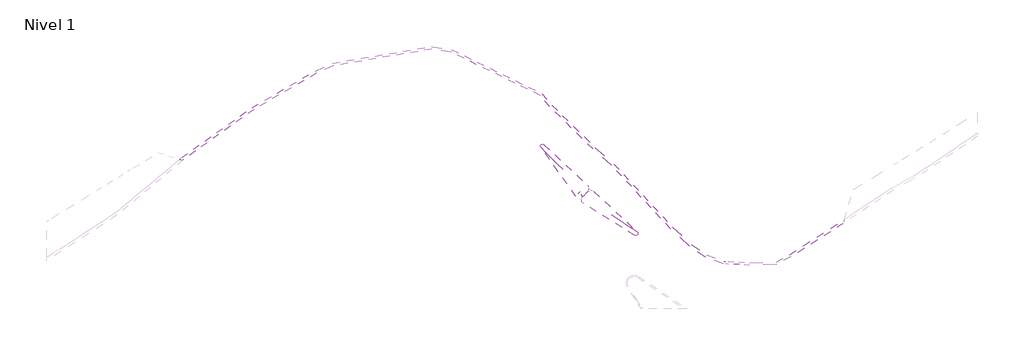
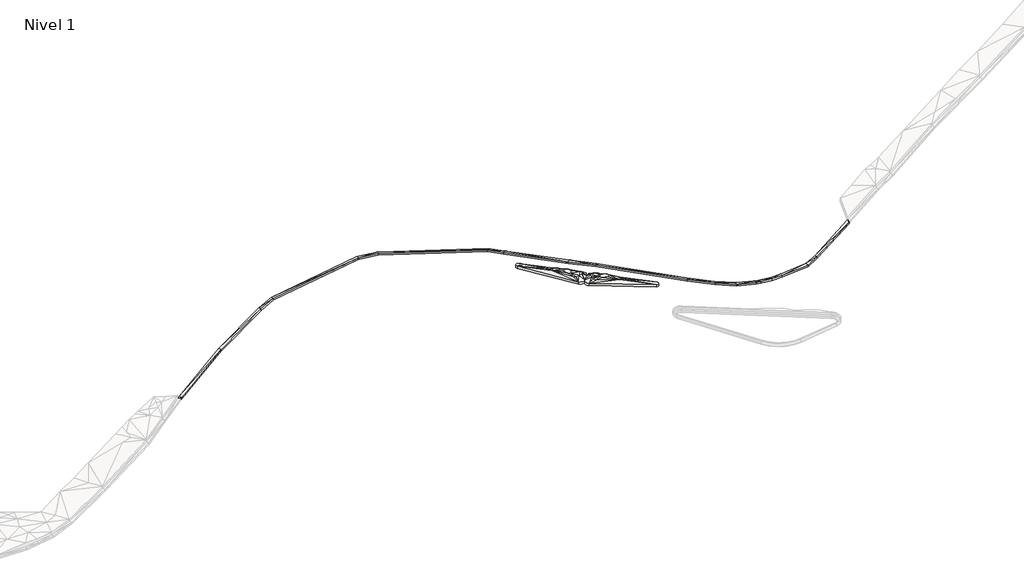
# One storey, part 39 of 45: 3 slabs.
"""IFC4 building model written with IfcOpenShell, lengths in millimetres."""

from ifc_helpers import new_model, si_unit, frame, origin, place, context, project, spatial, polyline, circle_curve, faceted_brep, element, save
from ifc_brep_helpers import plane_surface, cylinder_surface, revolved_surface, spline_surface, advanced_brep

model = new_model("IFC4")

# Units and contexts
model_context = context("Model", 3, world=origin())
ifc_project = project(units=[si_unit("LENGTHUNIT", "METRE", prefix="MILLI")], contexts=[model_context])

# Site, building, storey
site = spatial("IfcSite", under=ifc_project)
building = spatial("IfcBuilding", under=site)
storey = spatial("IfcBuildingStorey", under=building, Name="Nivel 1", Elevation=0.0)

# Slabs
placement = place(None, origin())
element("IfcSlab", 1, ObjectType="Lippia", at=placement, inside=storey, context=model_context, shape_type="AdvancedBrep", body=[
    advanced_brep(
    [(-76435.1369897, 950622.6443783, 5950.0), (-76435.1369897, 950622.6443783, 6250.0), (-77046.0704399, 949970.8708421, 6250.0), (-77046.0704399, 949970.8708421, 5950.0), (-77818.6474752, 950023.4719558, 6250.0), (-77818.6474752, 950023.4719558, 5950.0), (-81923.623135, 955769.5843605, 6250.0), (-81923.623135, 955769.5843605, 5950.0), (-81548.3037812, 956096.4401023, 5950.0), (-81548.3037812, 956096.4401023, 6250.0), (-76458.8259721, 951325.718032, 6250.0), (-76458.8259721, 951325.718032, 5950.0), (-77388.3218557, 950577.0256504, 6550.0), (-76942.5372837, 950804.7384024, 6550.0), (-77388.3218557, 950577.0256504, 6250.0), (-76942.5372837, 950804.7384024, 6250.0), (-78469.2875248, 951917.8143574, 6750.0), (-78391.3468971, 951638.7536323, 6750.0), (-78313.4062694, 951359.6929073, 6750.0), (-77970.2771539, 951198.8548317, 6750.0), (-77744.9177413, 951587.492539, 6750.0), (-77876.0465996, 951844.8392536, 6750.0), (-77984.3429155, 952057.3760013, 6750.0), (-78321.6851355, 952219.1697623, 6750.0), (-78469.2875248, 951917.8143574, 6450.0), (-78321.6851355, 952219.1697623, 6450.0), (-77984.3429155, 952057.3760013, 6450.0), (-77876.0465996, 951844.8392536, 6450.0), (-77744.9177413, 951587.492539, 6450.0), (-77970.2771539, 951198.8548317, 6450.0), (-78313.4062694, 951359.6929073, 6450.0), (-78391.3468971, 951638.7536323, 6450.0), (-76887.7393508, 951212.0219639, 6550.0), (-76808.5046331, 950994.033163, 6550.0), (-76887.7393508, 951212.0219639, 6250.0), (-76808.5046331, 950994.033163, 6250.0), (-77749.592549, 950537.2608149, 6550.0), (-77749.592549, 950537.2608149, 6250.0), (-78042.3456556, 950752.6520277, 6550.0), (-79373.3372658, 952833.8566069, 6550.0), (-79373.3372658, 952833.8566069, 6250.0), (-78042.3456556, 950752.6520277, 6250.0), (-78993.2909556, 953152.3769173, 6550.0), (-78993.2909556, 953152.3769173, 6250.0), (-79323.3177258, 953160.1470646, 6550.0), (-79323.3177258, 953160.1470646, 6250.0)],
    [
        (0, 1),
        (1, 2),
        (2, 3),
        (3, 0),
        (2, 4, circle_curve(frame((-77410.8706635, 950312.8127083, 6250.0), z_axis=(0.0, 0.0, -1.0), x_axis=(-0.6165845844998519, -0.7872886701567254, 0.0)), 499.9999992)),
        (4, 5),
        (5, 3, circle_curve(frame((-77410.8706635, 950312.8127083, 5950.0), z_axis=(0.0, 0.0, 1.0), x_axis=(-0.6165845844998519, -0.7872886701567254, 0.0)), 499.9999992)),
        (4, 6),
        (6, 7),
        (7, 5),
        (8, 9),
        (9, 10),
        (10, 11),
        (11, 8),
        (10, 1, circle_curve(frame((-76802.1411197, 950962.2146489, 6250.0), z_axis=(0.0, 0.0, -1.0), x_axis=(-0.6165845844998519, -0.7872886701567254, 0.0)), 500.0000001)),
        (0, 11, circle_curve(frame((-76802.1411197, 950962.2146489, 5950.0), z_axis=(0.0, 0.0, 1.0), x_axis=(-0.6165845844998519, -0.7872886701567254, 0.0)), 500.0000001)),
        (2, 12),
        (12, 4),
        (1, 13),
        (13, 2),
        (5, 14),
        (14, 3),
        (3, 15),
        (15, 0),
        (16, 17),
        (17, 18),
        (18, 19),
        (19, 20),
        (20, 21),
        (21, 22),
        (22, 23),
        (23, 16),
        (24, 25),
        (25, 26),
        (26, 27),
        (27, 28),
        (28, 29),
        (29, 30),
        (30, 31),
        (31, 24),
        (20, 32),
        (32, 22),
        (10, 32),
        (32, 33),
        (33, 10),
        (19, 32),
        (26, 34),
        (34, 28),
        (11, 35),
        (35, 34),
        (34, 11),
        (34, 29),
        (32, 12),
        (12, 13),
        (13, 33),
        (19, 12),
        (12, 36),
        (36, 4),
        (35, 15),
        (15, 14),
        (14, 34),
        (14, 29),
        (5, 37),
        (37, 14),
        (4, 38),
        (38, 39),
        (39, 4),
        (19, 38),
        (38, 36),
        (36, 19),
        (5, 40),
        (40, 41),
        (41, 5),
        (29, 37),
        (37, 41),
        (41, 29),
        (22, 42),
        (42, 23),
        (23, 39),
        (39, 16),
        (39, 18),
        (25, 43),
        (43, 26),
        (24, 40),
        (40, 25),
        (30, 40),
        (42, 39),
        (40, 43),
        (1, 33),
        (35, 0),
        (10, 42),
        (42, 32),
        (42, 44),
        (44, 39),
        (18, 38),
        (34, 43),
        (43, 11),
        (40, 45),
        (45, 43),
        (41, 30),
        (6, 9, circle_curve(frame((-81720.1964385, 955914.9107271, 6250.0), z_axis=(0.0, 0.0, -1.0), x_axis=(-0.6165845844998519, -0.7872886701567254, 0.0)), 249.9999994)),
        (8, 7, circle_curve(frame((-81720.1964385, 955914.9107271, 5950.0), z_axis=(0.0, 0.0, 1.0), x_axis=(-0.6165845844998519, -0.7872886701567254, 0.0)), 249.9999994)),
        (9, 42),
        (9, 44),
        (6, 44),
        (6, 39),
        (43, 8),
        (45, 8),
        (45, 7),
        (40, 7),
    ],
    [
        plane_surface(frame((-76435.1369897, 950622.6443783, 5950.0), z_axis=(0.7295954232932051, -0.6838790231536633, 0.0), x_axis=(0.0, 0.0, 1.0))),
        cylinder_surface(frame((-77410.8706635, 950312.8127083, 6250.0), z_axis=(0.0, 0.0, -1.0000000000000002), x_axis=(-0.6165845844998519, -0.7872886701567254, 0.0)), 499.9999992),
        plane_surface(frame((-77818.6474752, 950023.4719558, 5950.0), z_axis=(-0.8136926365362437, -0.5812953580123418, 0.0), x_axis=(0.0, 0.0, 1.0))),
        plane_surface(frame((-81548.3037812, 956096.4401023, 5950.0), z_axis=(0.6838905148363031, 0.7295846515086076, 0.0), x_axis=(0.0, 0.0, 1.0))),
        cylinder_surface(frame((-76802.1411197, 950962.2146489, 6250.0), z_axis=(0.0, 0.0, -1.0000000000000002), x_axis=(-0.6165845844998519, -0.7872886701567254, 0.0)), 500.0000001),
        spline_surface(2, 1, [[(-77818.6474752, 950023.4719558, 6250.0), (-77388.3218557, 950577.0256504, 6550.0)], [(-77681.42137488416, 949830.0749967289, 6250.0), (-77388.3218557, 950577.0256504, 6550.0)], [(-77444.83326242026, 949813.9675007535, 6250.0), (-77388.3218557, 950577.0256504, 6550.0)], [(-77208.2451499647, 949797.8600047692, 6250.0), (-77388.3218557, 950577.0256504, 6550.0)], [(-77046.0729525, 949970.8731972, 6250.0), (-77388.3218557, 950577.0256504, 6550.0)]], [3, 2, 3], [2, 2], [0.0, 1.0, 2.0], [0.0, 1.0], weights=[[1.0, 1.0], [0.9035324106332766, 0.9035324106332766], [1.0, 1.0], [0.9035324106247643, 0.9035324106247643], [1.0, 1.0]]),
        plane_surface(frame((-76807.9149044, 950466.0845409, 6350.0), z_axis=(0.37830301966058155, -0.3545985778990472, 0.8550711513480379), x_axis=(0.6838790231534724, 0.7295954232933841, 0.0))),
        spline_surface(1, 2, [[(-77818.6474752, 950023.4719558, 5950.0), (-77681.42137488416, 949830.0749967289, 5950.0), (-77444.83326242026, 949813.9675007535, 5950.0), (-77208.2451499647, 949797.8600047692, 5950.0), (-77046.0729525, 949970.8731972, 5950.0)], [(-77388.3218557, 950577.0256504, 6250.0), (-77388.3218557, 950577.0256504, 6250.0), (-77388.3218557, 950577.0256504, 6250.0), (-77388.3218557, 950577.0256504, 6250.0), (-77388.3218557, 950577.0256504, 6250.0)]], [2, 2], [3, 2, 3], [0.0, 1.0], [0.0, 1.0, 2.0], weights=[[1.0, 0.9035324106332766, 1.0, 0.9035324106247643, 1.0], [1.0, 0.9035324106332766, 1.0, 0.9035324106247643, 1.0]]),
        plane_surface(frame((-76807.9149044, 950466.0845409, 6050.0), z_axis=(-0.37830301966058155, 0.3545985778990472, -0.8550711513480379), x_axis=(0.6838790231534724, 0.7295954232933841, 0.0))),
        plane_surface(frame((-78133.9861234, 951723.4000665, 6750.0), z_axis=(0.0, 0.0, 1.0), x_axis=(0.26900137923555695, -0.9631397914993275, 0.0))),
        plane_surface(frame((-78133.9861234, 951723.4000665, 6450.0), z_axis=(0.0, 0.0, -1.0), x_axis=(0.26900137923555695, -0.9631397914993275, 0.0))),
        plane_surface(frame((-77539.0000025, 951618.9635014, 6683.3333333), z_axis=(0.28462563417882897, 0.14502860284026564, 0.9476048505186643), x_axis=(0.45400192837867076, -0.8910007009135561, 0.0))),
        plane_surface(frame((-76718.356652, 951177.2577196, 6450.0), z_axis=(0.5278484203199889, 0.19186270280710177, 0.8273842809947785), x_axis=(-0.8007726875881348, -0.2122682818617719, 0.5600939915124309))),
        plane_surface(frame((-77534.3114153, 951332.7897782, 6683.3333333), z_axis=(0.1819034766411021, -0.10548039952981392, 0.9776425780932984), x_axis=(0.9832880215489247, 0.011959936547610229, -0.18166349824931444))),
        plane_surface(frame((-77539.0000025, 951618.9635014, 6383.3333333), z_axis=(-0.28462563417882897, -0.14502860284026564, -0.9476048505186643), x_axis=(0.45400192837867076, -0.8910007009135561, 0.0))),
        plane_surface(frame((-76718.356652, 951177.2577196, 6150.0), z_axis=(-0.5278484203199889, -0.19186270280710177, -0.8273842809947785), x_axis=(-0.8007726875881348, -0.2122682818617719, 0.5600939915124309))),
        plane_surface(frame((-77534.3114153, 951332.7897782, 6383.3333333), z_axis=(-0.1819034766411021, 0.10548039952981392, -0.9776425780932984), x_axis=(0.9832880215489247, 0.011959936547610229, -0.18166349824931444))),
        plane_surface(frame((-77006.7757808, 950896.9547949, 6550.0), z_axis=(0.0, 0.0, 1.0000000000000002), x_axis=(-0.6190876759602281, -0.7853218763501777, 0.0))),
        plane_surface(frame((-77415.4461201, 950995.967482, 6616.6666667), z_axis=(0.18148995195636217, -0.14307279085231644, 0.9729293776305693), x_axis=(0.6652140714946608, -0.7107926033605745, -0.22861346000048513))),
        plane_surface(frame((-77652.1872933, 950379.252807, 6450.0), z_axis=(0.05603054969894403, -0.509047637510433, 0.8589127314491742), x_axis=(0.5642665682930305, 0.7258499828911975, 0.393376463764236))),
        plane_surface(frame((-77125.6431931, 950450.8782983, 6450.0), z_axis=(0.18017295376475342, -0.3527177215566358, 0.9182199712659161), x_axis=(0.11604010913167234, 0.9345999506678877, 0.33624042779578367))),
        plane_surface(frame((-77006.7757808, 950896.9547949, 6250.0), z_axis=(0.0, 0.0, -1.0000000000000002), x_axis=(-0.6190876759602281, -0.7853218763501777, 0.0))),
        plane_surface(frame((-77415.4461201, 950995.967482, 6316.6666667), z_axis=(-0.18148995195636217, 0.14307279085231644, -0.9729293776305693), x_axis=(0.6652140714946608, -0.7107926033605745, -0.22861346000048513))),
        plane_surface(frame((-77652.1872933, 950379.252807, 6150.0), z_axis=(-0.05603054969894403, 0.509047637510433, -0.8589127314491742), x_axis=(0.5642665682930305, 0.7258499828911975, 0.393376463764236))),
        plane_surface(frame((-77125.6431931, 950450.8782983, 6150.0), z_axis=(-0.18017295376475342, 0.3527177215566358, -0.9182199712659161), x_axis=(0.11604010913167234, 0.9345999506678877, 0.33624042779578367))),
        plane_surface(frame((-78411.4434656, 951203.3268635, 6450.0), z_axis=(-0.696205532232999, -0.4452439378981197, 0.563076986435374), x_axis=(-0.272935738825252, 0.889677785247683, 0.3660321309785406))),
        plane_surface(frame((-77920.7384528, 950829.5892248, 6616.6666667), z_axis=(-0.2639125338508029, -0.35870179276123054, 0.8953676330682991), x_axis=(-0.14581155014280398, -0.9027733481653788, -0.4046470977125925))),
        plane_surface(frame((-78411.4434656, 951203.3268635, 6150.0), z_axis=(0.696205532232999, 0.4452439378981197, -0.563076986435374), x_axis=(-0.272935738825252, 0.889677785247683, 0.3660321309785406))),
        plane_surface(frame((-77920.7384528, 950829.5892248, 6316.6666667), z_axis=(0.2639125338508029, 0.35870179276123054, -0.8953676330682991), x_axis=(-0.14581155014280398, -0.9027733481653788, -0.4046470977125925))),
        plane_surface(frame((-78433.1063355, 952476.3075603, 6683.3333333), z_axis=(0.14754888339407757, 0.307641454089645, 0.9399925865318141), x_axis=(0.901659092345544, -0.43244754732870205, 0.0))),
        plane_surface(frame((-78721.4366421, 952323.6135755, 6683.3333333), z_axis=(-0.14588615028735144, 0.07145431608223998, 0.9867175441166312), x_axis=(0.43986682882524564, 0.898063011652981, 0.0))),
        plane_surface(frame((-78718.67702, 952037.1212905, 6683.3333333), z_axis=(-0.293836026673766, -0.08206731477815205, 0.9523262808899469), x_axis=(-0.6941017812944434, 0.7033092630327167, -0.15355389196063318))),
        plane_surface(frame((-78433.1063355, 952476.3075603, 6383.3333333), z_axis=(-0.14754888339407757, -0.307641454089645, -0.9399925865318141), x_axis=(0.901659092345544, -0.43244754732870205, 0.0))),
        plane_surface(frame((-78721.4366421, 952323.6135755, 6383.3333333), z_axis=(0.14588615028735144, -0.07145431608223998, -0.9867175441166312), x_axis=(0.43986682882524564, 0.898063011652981, 0.0))),
        plane_surface(frame((-78718.67702, 952037.1212905, 6383.3333333), z_axis=(0.293836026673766, 0.08206731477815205, -0.9523262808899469), x_axis=(-0.6941017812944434, 0.7033092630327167, -0.15355389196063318))),
        plane_surface(frame((-78896.1044523, 952735.1344288, 6616.6666667), z_axis=(-0.11037380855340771, 0.13169382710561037, 0.9851265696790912), x_axis=(-0.5754890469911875, 0.799651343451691, -0.1713770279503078))),
        plane_surface(frame((-78896.1044523, 952735.1344288, 6316.6666667), z_axis=(0.11037380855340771, -0.13169382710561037, -0.9851265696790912), x_axis=(-0.5754890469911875, 0.799651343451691, -0.1713770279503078))),
        plane_surface(frame((-76728.7263022, 950807.1386479, 6450.0), z_axis=(0.40823194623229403, -0.28905401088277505, 0.8659067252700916), x_axis=(-0.6160368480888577, 0.6127718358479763, 0.4949841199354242))),
        spline_surface(2, 1, [[(-76435.1369897, 950622.6443783, 6250.0), (-76808.5046331, 950994.033163, 6550.0)], [(-76099.03051142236, 950985.9048764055, 6250.0), (-76808.5046331, 950994.033163, 6550.0)], [(-76458.8259721, 951325.718032, 6250.0), (-76808.5046331, 950994.033163, 6550.0)]], [3, 3], [2, 2], [0.0, 1.0], [0.0, 1.0], weights=[[1.0, 1.0], [0.7107223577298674, 0.7107223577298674], [1.0, 1.0]]),
        plane_surface(frame((-76728.7263022, 950807.1386479, 6150.0), z_axis=(-0.40823194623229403, 0.28905401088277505, -0.8659067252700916), x_axis=(-0.6160368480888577, 0.6127718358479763, 0.4949841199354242))),
        spline_surface(1, 2, [[(-76435.1369897, 950622.6443783, 5950.0), (-76099.03051142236, 950985.9048764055, 5950.0), (-76458.8259721, 951325.718032, 5950.0)], [(-76808.5046331, 950994.033163, 6250.0), (-76808.5046331, 950994.033163, 6250.0), (-76808.5046331, 950994.033163, 6250.0)]], [2, 2], [3, 3], [0.0, 1.0], [0.0, 1.0], weights=[[1.0, 0.7107223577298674, 1.0], [1.0, 0.7107223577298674, 1.0]]),
        plane_surface(frame((-77702.7305195, 950771.047099, 6616.6666667), z_axis=(0.030797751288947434, -0.2798031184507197, 0.9595632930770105), x_axis=(0.30416599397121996, -0.9118642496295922, -0.275656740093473))),
        plane_surface(frame((-77702.7305195, 950771.047099, 6316.6666667), z_axis=(-0.030797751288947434, 0.2798031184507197, -0.9595632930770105), x_axis=(0.30416599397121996, -0.9118642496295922, -0.275656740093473))),
        plane_surface(frame((-77446.6187595, 951896.7056377, 6450.0), z_axis=(0.423840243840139, 0.4599248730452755, 0.7802746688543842), x_axis=(-0.8075396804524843, 0.5820161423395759, 0.09558699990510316))),
        plane_surface(frame((-79229.9819824, 953048.7935296, 6550.0), z_axis=(0.0, 0.0, 1.0), x_axis=(0.766418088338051, 0.6423420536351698, 0.0))),
        plane_surface(frame((-78108.6763596, 951103.7332555, 6683.3333333), z_axis=(-0.1774288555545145, -0.3785235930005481, 0.9084266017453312), x_axis=(-0.9054626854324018, 0.4244258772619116, 0.0))),
        plane_surface(frame((-77870.1952266, 950437.7949328, 6450.0), z_axis=(-0.3263310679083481, -0.44353914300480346, 0.8347341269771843), x_axis=(0.1152922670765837, 0.8578082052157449, 0.5008720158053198))),
        plane_surface(frame((-77446.6187595, 951896.7056377, 6150.0), z_axis=(-0.423840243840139, -0.4599248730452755, -0.7802746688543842), x_axis=(-0.8075396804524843, 0.5820161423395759, 0.09558699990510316))),
        plane_surface(frame((-79229.9819824, 953048.7935296, 6250.0), z_axis=(0.0, 0.0, -1.0), x_axis=(0.766418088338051, 0.6423420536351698, 0.0))),
        plane_surface(frame((-78108.6763596, 951103.7332555, 6383.3333333), z_axis=(0.1774288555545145, 0.3785235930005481, -0.9084266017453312), x_axis=(-0.9054626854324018, 0.4244258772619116, 0.0))),
        plane_surface(frame((-77870.1952266, 950437.7949328, 6150.0), z_axis=(0.3263310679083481, 0.44353914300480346, -0.8347341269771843), x_axis=(0.1152922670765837, 0.8578082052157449, 0.5008720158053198))),
        plane_surface(frame((-77955.1244073, 952140.5916275, 6616.6666667), z_axis=(0.5791832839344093, 0.6284934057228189, 0.5191750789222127), x_axis=(0.7838557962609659, -0.6042618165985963, -0.14296065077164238))),
        plane_surface(frame((-77955.1244073, 952140.5916275, 6316.6666667), z_axis=(-0.5791832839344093, -0.6284934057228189, -0.5191750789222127), x_axis=(0.7838557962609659, -0.6042618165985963, -0.14296065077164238))),
        plane_surface(frame((-78576.3630636, 951648.7338473, 6616.6666667), z_axis=(-0.7554630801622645, -0.48314088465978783, 0.4425499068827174), x_axis=(-0.5802627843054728, 0.8070358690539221, -0.10949067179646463))),
        plane_surface(frame((-78576.3630636, 951648.7338473, 6316.6666667), z_axis=(0.7554630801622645, 0.48314088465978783, -0.4425499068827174), x_axis=(-0.5802627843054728, 0.8070358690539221, -0.10949067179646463))),
        cylinder_surface(frame((-81720.1964385, 955914.9107271, 6250.0), z_axis=(0.0, 0.0, -1.0000000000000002), x_axis=(-0.6165845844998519, -0.7872886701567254, 0.0)), 249.9999994),
        plane_surface(frame((-79000.1402363, 953524.8450172, 6350.0), z_axis=(0.40994441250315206, 0.4373348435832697, 0.8004272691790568), x_axis=(-0.7295846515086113, 0.683890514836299, 0.0))),
        plane_surface(frame((-79954.9708209, 954136.3213614, 6450.0), z_axis=(0.002436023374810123, 0.10346688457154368, 0.9946299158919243), x_axis=(-0.6535094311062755, 0.753018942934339, -0.07673262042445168))),
        spline_surface(2, 1, [[(-81548.3037812, 956096.4401023, 6250.0), (-79323.3177258, 953160.1470646, 6550.0)], [(-81713.16427563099, 956252.5487675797, 6250.0), (-79323.3177258, 953160.1470646, 6550.0)], [(-81884.38169685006, 956103.4397716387, 6250.0), (-79323.3177258, 953160.1470646, 6550.0)], [(-82055.59911809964, 955954.3307757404, 6250.0), (-79323.3177258, 953160.1470646, 6550.0)], [(-81923.6195971, 955769.586888, 6250.0), (-79323.3177258, 953160.1470646, 6550.0)]], [3, 2, 3], [2, 2], [0.0, 1.0, 2.0], [0.0, 1.0], weights=[[1.0, 1.0], [0.7402773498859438, 0.7402773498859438], [1.0, 1.0], [0.7402773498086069, 0.7402773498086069], [1.0, 1.0]]),
        plane_surface(frame((-80206.7593755, 953921.1960107, 6450.0), z_axis=(-0.09948144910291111, 0.015250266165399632, 0.994922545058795), x_axis=(0.15152746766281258, 0.9884530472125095, 0.0))),
        plane_surface(frame((-79705.2026253, 952875.6376411, 6350.0), z_axis=(-0.5136168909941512, -0.36692370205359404, 0.775606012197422), x_axis=(-0.48196553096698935, 0.8712403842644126, 0.09300225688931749))),
        plane_surface(frame((-79000.1402363, 953524.8450172, 6050.0), z_axis=(-0.40994441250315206, -0.4373348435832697, -0.8004272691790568), x_axis=(-0.7295846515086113, 0.683890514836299, 0.0))),
        plane_surface(frame((-79954.9708209, 954136.3213614, 6150.0), z_axis=(-0.002436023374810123, -0.10346688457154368, -0.9946299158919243), x_axis=(-0.6535094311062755, 0.753018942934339, -0.07673262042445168))),
        spline_surface(1, 2, [[(-81548.3037812, 956096.4401023, 5950.0), (-81713.16427563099, 956252.5487675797, 5950.0), (-81884.38169685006, 956103.4397716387, 5950.0), (-82055.59911809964, 955954.3307757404, 5950.0), (-81923.6195971, 955769.586888, 5950.0)], [(-79323.3177258, 953160.1470646, 6250.0), (-79323.3177258, 953160.1470646, 6250.0), (-79323.3177258, 953160.1470646, 6250.0), (-79323.3177258, 953160.1470646, 6250.0), (-79323.3177258, 953160.1470646, 6250.0)]], [2, 2], [3, 2, 3], [0.0, 1.0], [0.0, 1.0, 2.0], weights=[[1.0, 0.7402773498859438, 1.0, 0.7402773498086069, 1.0], [1.0, 0.7402773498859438, 1.0, 0.7402773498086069, 1.0]]),
        plane_surface(frame((-80206.7593755, 953921.1960107, 6150.0), z_axis=(0.09948144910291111, -0.015250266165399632, -0.994922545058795), x_axis=(0.15152746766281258, 0.9884530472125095, 0.0))),
        plane_surface(frame((-79705.2026253, 952875.6376411, 6050.0), z_axis=(0.5136168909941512, 0.36692370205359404, -0.775606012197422), x_axis=(-0.48196553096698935, 0.8712403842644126, 0.09300225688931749))),
    ],
    [
        (0, [[1, 2, 3, 4]]),
        (1, [[-3, 5, 6, 7]]),
        (2, [[-6, 8, 9, 10]]),
        (3, [[11, 12, 13, 14]]),
        (4, [[-13, 15, -1, 16]]),
        (5, [[-5, 17, 18]]),
        (6, [[-2, 19, 20]]),
        (7, [[21, 22, -7]]),
        (8, [[23, 24, -4]]),
        (9, [[25, 26, 27, 28, 29, 30, 31, 32]]),
        (10, [[33, 34, 35, 36, 37, 38, 39, 40]]),
        (11, [[-29, 41, 42, -30]]),
        (12, [[43, 44, 45]]),
        (13, [[46, -41, -28]]),
        (14, [[-35, 47, 48, -36]]),
        (15, [[49, 50, 51]]),
        (16, [[-37, -48, 52]]),
        (17, [[53, 54, 55, -44]]),
        (18, [[56, -53, -46]]),
        (19, [[-18, 57, 58]]),
        (20, [[-20, -54, -17]]),
        (21, [[-50, 59, 60, 61]]),
        (22, [[-52, -61, 62]]),
        (23, [[63, 64, -21]]),
        (24, [[-22, -60, -23]]),
        (25, [[65, 66, 67]]),
        (26, [[68, 69, 70]]),
        (27, [[71, 72, 73]]),
        (28, [[74, 75, 76]]),
        (29, [[-31, 77, 78]]),
        (30, [[-32, 79, 80]]),
        (31, [[-80, 81, -26, -25]]),
        (32, [[82, 83, -34]]),
        (33, [[84, 85, -33]]),
        (34, [[-40, -39, 86, -84]]),
        (35, [[-78, 87, -79]]),
        (36, [[-85, 88, -82]]),
        (37, [[89, -55, -19]]),
        (38, [[-45, -89, -15]]),
        (39, [[-24, -59, 90]]),
        (40, [[-16, -90, -49]]),
        (41, [[-70, -57, -56]]),
        (42, [[-62, -64, -74]]),
        (43, [[91, 92, -43]]),
        (44, [[-87, 93, 94]]),
        (45, [[-27, 95, -68]]),
        (46, [[-58, -69, -65]]),
        (47, [[-51, 96, 97]]),
        (48, [[98, 99, -88]]),
        (49, [[-76, 100, -38]]),
        (50, [[-73, -75, -63]]),
        (51, [[-42, -92, -77]]),
        (52, [[-83, -96, -47]]),
        (53, [[-81, -66, -95]]),
        (54, [[-100, -72, -86]]),
        (55, [[-9, 101, -11, 102]]),
        (56, [[-12, 103, -91]]),
        (57, [[-103, 104, -93]]),
        (58, [[-104, -101, 105]]),
        (59, [[-94, -105, 106]]),
        (60, [[-67, -106, -8]]),
        (61, [[-97, 107, -14]]),
        (62, [[-99, 108, -107]]),
        (63, [[109, -102, -108]]),
        (64, [[110, -109, -98]]),
        (65, [[-10, -110, -71]]),
    ],
),
])
element("IfcSlab", 2, ObjectType="Lippia", at=placement, inside=storey, context=model_context, shape_type="AdvancedBrep", body=[
    advanced_brep(
    [(-77062.0282511, 949953.8691999, 5950.0), (-77062.0282511, 949953.8691999, 6250.0), (-76434.7380016, 950622.1894251, 6250.0), (-76434.7380016, 950622.1894251, 5950.0), (-76918.1493136, 949189.326082, 5950.0), (-76918.1493136, 949189.326082, 6250.0), (-70957.6543549, 945481.6323534, 5950.0), (-70957.6543549, 945481.6323534, 6250.0), (-75731.5884755, 950643.5078269, 5950.0), (-75731.5884755, 950643.5078269, 6250.0), (-70633.1920488, 945853.5104789, 6250.0), (-70633.1920488, 945853.5104789, 5950.0), (-75579.0897389, 948794.8957782, 6750.0), (-75012.1425533, 948675.0233137, 6750.0), (-74729.8931872, 948851.7611882, 6750.0), (-74868.8299397, 949158.2961881, 6750.0), (-75122.903816, 949262.3835982, 6750.0), (-75407.0970984, 949390.0633752, 6750.0), (-75761.5404439, 949127.0376405, 6750.0), (-76430.6381561, 949672.8972148, 6550.0), (-76230.1529852, 950136.6398024, 6550.0), (-75579.0897389, 948794.8957782, 6450.0), (-75761.5404439, 949127.0376405, 6450.0), (-75407.0970984, 949390.0633752, 6450.0), (-75122.903816, 949262.3835982, 6450.0), (-74868.8299397, 949158.2961881, 6450.0), (-74729.8931872, 948851.7611882, 6450.0), (-75012.1425533, 948675.0233137, 6450.0), (-76430.6381561, 949672.8972148, 6250.0), (-76230.1529852, 950136.6398024, 6250.0), (-74049.1507048, 947841.1358727, 6550.0), (-73755.6815768, 948240.8430387, 6550.0), (-74049.1507048, 947841.1358727, 6250.0), (-73755.6815768, 948240.8430387, 6250.0), (-75828.0809531, 950218.2995737, 6550.0), (-76072.3941878, 950277.6506599, 6550.0), (-75828.0809531, 950218.2995737, 6250.0), (-76072.3941878, 950277.6506599, 6250.0), (-76444.6911751, 949312.4028143, 6550.0), (-76444.6911751, 949312.4028143, 6250.0), (-76212.4932157, 949036.2908663, 6550.0), (-76212.4932157, 949036.2908663, 6250.0), (-73726.7450131, 947912.0018533, 6550.0), (-73726.7450131, 947912.0018533, 6250.0)],
    [
        (0, 1),
        (1, 2),
        (2, 3),
        (3, 0),
        (4, 5),
        (5, 1, circle_curve(frame((-76681.3534993, 949629.6983595, 6250.0), z_axis=(0.0, 0.0, -1.0), x_axis=(0.2588190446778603, -0.9659258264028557, 0.0)), 500.0000005)),
        (0, 4, circle_curve(frame((-76681.3534993, 949629.6983595, 5950.0), z_axis=(0.0, 0.0, 1.0), x_axis=(0.2588190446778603, -0.9659258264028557, 0.0)), 500.0000005)),
        (6, 7),
        (7, 5),
        (4, 6),
        (8, 9),
        (9, 10),
        (10, 11),
        (11, 8),
        (2, 9, circle_curve(frame((-76072.3941878, 950277.6506599, 6250.0), z_axis=(0.0, 0.0, -1.0), x_axis=(0.2588190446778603, -0.9659258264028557, 0.0)), 500.0000001)),
        (8, 3, circle_curve(frame((-76072.3941878, 950277.6506599, 5950.0), z_axis=(0.0, 0.0, 1.0), x_axis=(0.2588190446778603, -0.9659258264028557, 0.0)), 500.0000001)),
        (12, 13),
        (13, 14),
        (14, 15),
        (15, 16),
        (16, 17),
        (17, 18),
        (18, 12),
        (5, 19),
        (19, 1),
        (1, 20),
        (20, 2),
        (21, 22),
        (22, 23),
        (23, 24),
        (24, 25),
        (25, 26),
        (26, 27),
        (27, 21),
        (0, 28),
        (28, 4),
        (3, 29),
        (29, 0),
        (13, 30),
        (30, 14),
        (14, 31),
        (31, 15),
        (26, 32),
        (32, 27),
        (25, 33),
        (33, 26),
        (30, 31),
        (12, 30),
        (33, 32),
        (32, 21),
        (34, 9),
        (9, 35),
        (35, 34),
        (16, 34),
        (34, 17),
        (36, 37),
        (37, 8),
        (8, 36),
        (23, 36),
        (36, 24),
        (2, 35),
        (35, 20),
        (20, 19),
        (19, 34),
        (37, 3),
        (36, 28),
        (28, 29),
        (29, 37),
        (19, 17),
        (19, 18),
        (5, 38),
        (38, 19),
        (23, 28),
        (22, 28),
        (28, 39),
        (39, 4),
        (40, 18),
        (18, 38),
        (38, 40),
        (40, 5),
        (5, 30),
        (30, 40),
        (41, 39),
        (39, 22),
        (22, 41),
        (41, 32),
        (32, 4),
        (4, 41),
        (34, 15),
        (31, 34),
        (31, 9),
        (36, 33),
        (25, 36),
        (8, 33),
        (40, 12),
        (21, 41),
        (42, 31),
        (30, 42),
        (43, 32),
        (33, 43),
        (10, 7, circle_curve(frame((-70825.636238, 945693.9321798, 6250.0), z_axis=(0.0, 0.0, -1.0), x_axis=(0.2588190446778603, -0.9659258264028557, 0.0)), 249.999999)),
        (6, 11, circle_curve(frame((-70825.636238, 945693.9321798, 5950.0), z_axis=(0.0, 0.0, 1.0), x_axis=(0.2588190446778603, -0.9659258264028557, 0.0)), 249.999999)),
        (31, 10),
        (42, 10),
        (42, 7),
        (30, 7),
        (11, 33),
        (11, 43),
        (6, 43),
        (6, 32),
    ],
    [
        plane_surface(frame((-77062.0282511, 949953.8691999, 5950.0), z_axis=(-0.7291342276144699, 0.6843707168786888, 0.0), x_axis=(0.0, 0.0, 1.0))),
        cylinder_surface(frame((-76681.3534993, 949629.6983595, 6250.0), z_axis=(0.0, 0.0, -1.0), x_axis=(0.2588190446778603, -0.9659258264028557, 0.0)), 500.0000005),
        plane_surface(frame((-70957.6543549, 945481.6323534, 5950.0), z_axis=(-0.5281931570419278, -0.8491242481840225, 0.0), x_axis=(0.0, 0.0, 1.0))),
        plane_surface(frame((-75731.5884755, 950643.5078269, 5950.0), z_axis=(0.6847206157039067, 0.728805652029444, 0.0), x_axis=(0.0, 0.0, 1.0))),
        cylinder_surface(frame((-76072.3941878, 950277.6506599, 6250.0), z_axis=(0.0, 0.0, -1.0), x_axis=(0.2588190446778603, -0.9659258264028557, 0.0)), 500.0000001),
        plane_surface(frame((-75211.6423968, 949037.0658689, 6750.0), z_axis=(0.0, 0.0, 1.0000000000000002), x_axis=(0.9783701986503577, -0.20686167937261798, 0.0))),
        spline_surface(2, 1, [[(-77062.0282511, 949953.8691999, 6250.0), (-76430.6381561, 949672.8972148, 6550.0)], [(-77216.90858896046, 949771.9927729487, 6250.0), (-76430.6381561, 949672.8972148, 6550.0)], [(-77172.72812193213, 949537.2268468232, 6250.0), (-76430.6381561, 949672.8972148, 6550.0)], [(-77128.5476548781, 949302.4609206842, 6250.0), (-76430.6381561, 949672.8972148, 6550.0)], [(-76918.1493136, 949189.326082, 6250.0), (-76430.6381561, 949672.8972148, 6550.0)]], [3, 2, 3], [2, 2], [0.0, 1.0, 2.0], [0.0, 1.0], weights=[[1.0, 1.0], [0.9023052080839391, 0.9023052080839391], [1.0, 1.0], [0.9023052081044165, 0.9023052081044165], [1.0, 1.0]]),
        plane_surface(frame((-76575.639746, 950237.5661425, 6350.0), z_axis=(-0.38559321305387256, 0.3619206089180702, 0.8487233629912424), x_axis=(-0.6843707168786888, -0.7291342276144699, 0.0))),
        plane_surface(frame((-75211.6423968, 949037.0658689, 6450.0), z_axis=(0.0, 0.0, -1.0000000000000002), x_axis=(0.9783701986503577, -0.20686167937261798, 0.0))),
        spline_surface(1, 2, [[(-77062.0282511, 949953.8691999, 5950.0), (-77216.90858896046, 949771.9927729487, 5950.0), (-77172.72812193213, 949537.2268468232, 5950.0), (-77128.5476548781, 949302.4609206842, 5950.0), (-76918.1493136, 949189.326082, 5950.0)], [(-76430.6381561, 949672.8972148, 6250.0), (-76430.6381561, 949672.8972148, 6250.0), (-76430.6381561, 949672.8972148, 6250.0), (-76430.6381561, 949672.8972148, 6250.0), (-76430.6381561, 949672.8972148, 6250.0)]], [2, 2], [3, 2, 3], [0.0, 1.0], [0.0, 1.0, 2.0], weights=[[1.0, 0.9023052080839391, 1.0, 0.9023052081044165, 1.0], [1.0, 0.9023052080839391, 1.0, 0.9023052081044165, 1.0]]),
        plane_surface(frame((-76575.639746, 950237.5661425, 6050.0), z_axis=(0.38559321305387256, -0.3619206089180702, -0.8487233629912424), x_axis=(-0.6843707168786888, -0.7291342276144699, 0.0))),
        plane_surface(frame((-74597.0621484, 948455.9734582, 6683.3333333), z_axis=(0.08600509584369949, -0.13734964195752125, 0.9867817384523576), x_axis=(-0.8475499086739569, -0.5307156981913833, 0.0))),
        plane_surface(frame((-74451.4682346, 948750.3001383, 6683.3333333), z_axis=(0.27357159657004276, 0.12399611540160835, 0.9538257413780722), x_axis=(0.4128242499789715, -0.9108107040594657, 0.0))),
        plane_surface(frame((-74597.0621484, 948455.9734582, 6383.3333333), z_axis=(-0.08600509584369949, 0.13734964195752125, -0.9867817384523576), x_axis=(-0.8475499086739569, -0.5307156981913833, 0.0))),
        plane_surface(frame((-74451.4682346, 948750.3001383, 6383.3333333), z_axis=(-0.27357159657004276, -0.12399611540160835, -0.9538257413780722), x_axis=(0.4128242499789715, -0.9108107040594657, 0.0))),
        plane_surface(frame((-74178.2418229, 948311.2466999, 6616.6666667), z_axis=(0.13848238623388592, -0.10167519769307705, 0.9851318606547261), x_axis=(-0.8346712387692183, 0.5234138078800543, 0.17135317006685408))),
        plane_surface(frame((-74880.1276657, 948437.0183215, 6683.3333333), z_axis=(-0.06381987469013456, -0.30184161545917, 0.9512195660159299), x_axis=(-0.7468146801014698, 0.646692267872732, 0.15510301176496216))),
        plane_surface(frame((-74178.2418229, 948311.2466999, 6316.6666667), z_axis=(-0.13848238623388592, 0.10167519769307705, -0.9851318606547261), x_axis=(-0.8346712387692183, 0.5234138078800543, 0.17135317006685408))),
        plane_surface(frame((-74880.1276657, 948437.0183215, 6383.3333333), z_axis=(0.06381987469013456, 0.30184161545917, -0.9512195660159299), x_axis=(-0.7468146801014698, 0.646692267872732, 0.15510301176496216))),
        plane_surface(frame((-75877.3545388, 950379.8193535, 6450.0), z_axis=(0.1338194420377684, 0.5508553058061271, 0.8238026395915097), x_axis=(0.18231690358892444, 0.8034061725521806, -0.5668324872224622))),
        plane_surface(frame((-75452.6939559, 949623.5821824, 6683.3333333), z_axis=(0.13298630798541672, 0.2960047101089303, 0.9458836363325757), x_axis=(0.9121702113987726, -0.40981154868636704, 0.0))),
        plane_surface(frame((-75877.3545388, 950379.8193535, 6150.0), z_axis=(-0.1338194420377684, -0.5508553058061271, -0.8238026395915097), x_axis=(0.18231690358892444, 0.8034061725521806, -0.5668324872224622))),
        plane_surface(frame((-75452.6939559, 949623.5821824, 6383.3333333), z_axis=(-0.13298630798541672, -0.2960047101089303, -0.9458836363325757), x_axis=(0.9121702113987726, -0.40981154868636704, 0.0))),
        revolved_surface(polyline([(-76072.3941878, 950277.6506599, 6550.0), (-75731.58847549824, 950643.5078269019, 6249.999999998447)]), (-76072.3941878, 950277.6506599, 6550.0), (-1.8480932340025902e-12, 0.0, -1.0)),
        plane_surface(frame((-76140.3165706, 950076.3718127, 6550.0), z_axis=(0.0, 0.0, 1.0), x_axis=(-0.745574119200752, -0.6664227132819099, 0.0))),
        plane_surface(frame((-76245.7617249, 950345.4932958, 6450.0), z_axis=(-0.3437035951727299, 0.3845254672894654, 0.8567426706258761), x_axis=(-0.6214145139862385, 0.590879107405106, -0.5144957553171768))),
        revolved_surface(polyline([(-76434.7380016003, 950622.1894251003, 5949.999999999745), (-76072.3941878, 950277.6506599, 6250.0)]), (-76072.3941878, 950277.6506599, 6250.0), (-1.8480932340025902e-12, 0.0, -1.0)),
        plane_surface(frame((-76140.3165706, 950076.3718127, 6250.0), z_axis=(0.0, 0.0, -1.0), x_axis=(-0.745574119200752, -0.6664227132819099, 0.0))),
        plane_surface(frame((-76245.7617249, 950345.4932958, 6150.0), z_axis=(0.3437035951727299, -0.3845254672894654, -0.8567426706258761), x_axis=(-0.6214145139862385, 0.590879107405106, -0.5144957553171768))),
        plane_surface(frame((-75888.6054026, 949760.4200546, 6616.6666667), z_axis=(-0.1461078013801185, 0.1614190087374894, 0.9760104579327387), x_axis=(0.9472233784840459, -0.2617450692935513, 0.18508751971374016))),
        plane_surface(frame((-75866.4252328, 949396.6660768, 6683.3333333), z_axis=(-0.13848361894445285, 0.18661518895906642, 0.9726238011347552), x_axis=(0.7548727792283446, -0.6158361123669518, 0.2256390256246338))),
        plane_surface(frame((-76597.8262149, 949391.542037, 6450.0), z_axis=(-0.5390078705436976, 0.021011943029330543, 0.8420386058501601), x_axis=(-0.6505887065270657, -0.6453307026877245, -0.4003531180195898))),
        plane_surface(frame((-76574.2731308, 949921.1354057, 6450.0), z_axis=(-0.3655224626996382, 0.15802265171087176, 0.9172906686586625), x_axis=(-0.9212279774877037, -0.20240221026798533, -0.33222335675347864))),
        plane_surface(frame((-75888.6054026, 949760.4200546, 6316.6666667), z_axis=(0.1461078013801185, -0.1614190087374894, -0.9760104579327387), x_axis=(0.9472233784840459, -0.2617450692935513, 0.18508751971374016))),
        plane_surface(frame((-75866.4252328, 949396.6660768, 6383.3333333), z_axis=(0.13848361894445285, -0.18661518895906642, -0.9726238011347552), x_axis=(0.7548727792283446, -0.6158361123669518, 0.2256390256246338))),
        plane_surface(frame((-76597.8262149, 949391.542037, 6150.0), z_axis=(0.5390078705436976, -0.021011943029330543, -0.8420386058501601), x_axis=(-0.6505887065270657, -0.6453307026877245, -0.4003531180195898))),
        plane_surface(frame((-76574.2731308, 949921.1354057, 6150.0), z_axis=(0.3655224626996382, -0.15802265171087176, -0.9172906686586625), x_axis=(-0.9212279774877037, -0.20240221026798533, -0.33222335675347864))),
        plane_surface(frame((-76139.5749449, 949158.577107, 6616.6666667), z_axis=(-0.33986360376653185, -0.2858102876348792, 0.8959939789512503), x_axis=(0.8990450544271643, 0.18091792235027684, 0.3987313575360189))),
        plane_surface(frame((-75726.5977447, 948688.917607, 6450.0), z_axis=(-0.3978420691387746, -0.7201314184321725, 0.5684473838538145), x_axis=(-0.9024869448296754, 0.1957218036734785, -0.3836799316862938))),
        plane_surface(frame((-76139.5749449, 949158.577107, 6316.6666667), z_axis=(0.33986360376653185, 0.2858102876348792, -0.8959939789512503), x_axis=(0.8990450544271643, 0.18091792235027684, 0.3987313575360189))),
        plane_surface(frame((-75726.5977447, 948688.917607, 6150.0), z_axis=(0.3978420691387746, 0.7201314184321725, -0.5684473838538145), x_axis=(-0.9024869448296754, 0.1957218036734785, -0.3836799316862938))),
        plane_surface(frame((-76212.289925, 949370.7792232, 6616.6666667), z_axis=(-0.27823951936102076, 0.010846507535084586, 0.9604504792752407), x_axis=(0.9287434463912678, -0.25200396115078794, 0.27190000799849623))),
        plane_surface(frame((-76212.289925, 949370.7792232, 6316.6666667), z_axis=(0.27823951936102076, -0.010846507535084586, -0.9604504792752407), x_axis=(0.9287434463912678, -0.25200396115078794, 0.27190000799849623))),
        plane_surface(frame((-74817.5308232, 949205.8129335, 6616.6666667), z_axis=(0.6116188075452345, 0.6409842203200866, 0.4637474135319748), x_axis=(0.6645190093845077, -0.734314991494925, 0.13854955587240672))),
        plane_surface(frame((-75273.2715696, 949546.3264533, 6683.3333333), z_axis=(0.11685504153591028, 0.28523923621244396, 0.9513061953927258), x_axis=(0.5854057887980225, -0.7935576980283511, 0.16603084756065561))),
        plane_surface(frame((-75105.1170018, 949700.8834798, 6450.0), z_axis=(0.4317822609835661, 0.45251325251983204, 0.7802536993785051), x_axis=(-0.632245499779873, 0.7687983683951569, -0.09599321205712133))),
        plane_surface(frame((-74817.5308232, 949205.8129335, 6316.6666667), z_axis=(-0.6116188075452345, -0.6409842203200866, -0.4637474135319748), x_axis=(0.6645190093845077, -0.734314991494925, 0.13854955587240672))),
        plane_surface(frame((-75273.2715696, 949546.3264533, 6383.3333333), z_axis=(-0.11685504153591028, -0.28523923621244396, -0.9513061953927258), x_axis=(0.5854057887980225, -0.7935576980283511, 0.16603084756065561))),
        plane_surface(frame((-75105.1170018, 949700.8834798, 6150.0), z_axis=(-0.4317822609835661, -0.45251325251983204, -0.7802536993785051), x_axis=(-0.632245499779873, 0.7687983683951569, -0.09599321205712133))),
        plane_surface(frame((-75851.0411328, 948986.0747617, 6683.3333333), z_axis=(-0.36341301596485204, -0.199628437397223, 0.9099887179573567), x_axis=(-0.4814581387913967, 0.8764690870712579, 0.0))),
        plane_surface(frame((-75280.2445531, 948557.4408391, 6616.6666667), z_axis=(-0.4367974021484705, -0.7906442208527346, 0.4290568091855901), x_axis=(-0.8434350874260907, 0.5257951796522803, 0.11025734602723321))),
        plane_surface(frame((-75851.0411328, 948986.0747617, 6383.3333333), z_axis=(0.36341301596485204, 0.199628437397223, -0.9099887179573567), x_axis=(-0.4814581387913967, 0.8764690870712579, 0.0))),
        plane_surface(frame((-75280.2445531, 948557.4408391, 6316.6666667), z_axis=(0.4367974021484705, 0.7906442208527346, -0.4290568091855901), x_axis=(-0.8434350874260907, 0.5257951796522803, 0.11025734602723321))),
        plane_surface(frame((-73843.8590982, 947997.9935882, 6550.0), z_axis=(0.0, 0.0, 1.0000000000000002), x_axis=(-0.0876568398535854, 0.9961507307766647, 0.0))),
        plane_surface(frame((-76525.1112348, 949179.3399208, 6450.0), z_axis=(-0.4300962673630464, -0.3616919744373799, 0.8271614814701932), x_axis=(-0.8250472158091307, -0.21447327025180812, -0.5227794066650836))),
        plane_surface(frame((-73843.8590982, 947997.9935882, 6250.0), z_axis=(0.0, 0.0, -1.0000000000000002), x_axis=(-0.0876568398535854, 0.9961507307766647, 0.0))),
        plane_surface(frame((-76525.1112348, 949179.3399208, 6150.0), z_axis=(0.4300962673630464, 0.3616919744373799, -0.8271614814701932), x_axis=(-0.8250472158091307, -0.21447327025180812, -0.5227794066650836))),
        cylinder_surface(frame((-70825.636238, 945693.9321798, 6250.0), z_axis=(0.0, 0.0, -1.0), x_axis=(0.2588190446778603, -0.9659258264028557, 0.0)), 249.999999),
        plane_surface(frame((-73373.4873671, 948245.9537815, 6350.0), z_axis=(0.41206324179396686, 0.4385935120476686, 0.7986486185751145), x_axis=(-0.728805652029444, 0.6847206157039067, 0.0))),
        plane_surface(frame((-72705.2062129, 947335.4517903, 6450.0), z_axis=(0.1024609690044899, 0.009016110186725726, 0.9946961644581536), x_axis=(-0.7921096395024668, 0.6056158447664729, 0.07610366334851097))),
        spline_surface(2, 1, [[(-70957.6543549, 945481.6323534, 6250.0), (-73726.7450131, 947912.0018533, 6550.0)], [(-70777.06651681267, 945369.3342572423, 6250.0), (-73726.7450131, 947912.0018533, 6550.0)], [(-70637.25852540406, 945529.5733136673, 6250.0), (-73726.7450131, 947912.0018533, 6550.0)], [(-70497.45053401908, 945689.8123701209, 6250.0), (-73726.7450131, 947912.0018533, 6550.0)], [(-70633.1920488, 945853.5104789, 6250.0), (-73726.7450131, 947912.0018533, 6550.0)]], [3, 2, 3], [2, 2], [0.0, 1.0, 2.0], [0.0, 1.0], weights=[[1.0, 1.0], [0.7617038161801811, 0.7617038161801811], [1.0, 1.0], [0.7617038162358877, 0.7617038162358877], [1.0, 1.0]]),
        plane_surface(frame((-72911.1833576, 947078.2566931, 6450.0), z_axis=(0.02158812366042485, -0.09821544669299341, 0.9949309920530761), x_axis=(-0.9766846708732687, -0.2146789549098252, 0.0))),
        plane_surface(frame((-73974.9847911, 947504.031436, 6350.0), z_axis=(-0.33232942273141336, -0.5342533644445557, 0.7772583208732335), x_axis=(-0.9010267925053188, 0.42340749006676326, -0.09421685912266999))),
        plane_surface(frame((-73373.4873671, 948245.9537815, 6050.0), z_axis=(-0.41206324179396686, -0.4385935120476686, -0.7986486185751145), x_axis=(-0.728805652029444, 0.6847206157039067, 0.0))),
        plane_surface(frame((-72705.2062129, 947335.4517903, 6150.0), z_axis=(-0.1024609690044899, -0.009016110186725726, -0.9946961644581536), x_axis=(-0.7921096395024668, 0.6056158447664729, 0.07610366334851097))),
        spline_surface(1, 2, [[(-70957.6543549, 945481.6323534, 5950.0), (-70777.06651681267, 945369.3342572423, 5950.0), (-70637.25852540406, 945529.5733136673, 5950.0), (-70497.45053401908, 945689.8123701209, 5950.0), (-70633.1920488, 945853.5104789, 5950.0)], [(-73726.7450131, 947912.0018533, 6250.0), (-73726.7450131, 947912.0018533, 6250.0), (-73726.7450131, 947912.0018533, 6250.0), (-73726.7450131, 947912.0018533, 6250.0), (-73726.7450131, 947912.0018533, 6250.0)]], [2, 2], [3, 2, 3], [0.0, 1.0], [0.0, 1.0, 2.0], weights=[[1.0, 0.7617038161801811, 1.0, 0.7617038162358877, 1.0], [1.0, 0.7617038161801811, 1.0, 0.7617038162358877, 1.0]]),
        plane_surface(frame((-72911.1833576, 947078.2566931, 6150.0), z_axis=(-0.02158812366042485, 0.09821544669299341, -0.9949309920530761), x_axis=(-0.9766846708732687, -0.2146789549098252, 0.0))),
        plane_surface(frame((-73974.9847911, 947504.031436, 6050.0), z_axis=(0.33232942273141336, 0.5342533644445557, -0.7772583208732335), x_axis=(-0.9010267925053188, 0.42340749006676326, -0.09421685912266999))),
    ],
    [
        (0, [[1, 2, 3, 4]]),
        (1, [[5, 6, -1, 7]]),
        (2, [[8, 9, -5, 10]]),
        (3, [[11, 12, 13, 14]]),
        (4, [[-3, 15, -11, 16]]),
        (5, [[17, 18, 19, 20, 21, 22, 23]]),
        (6, [[-6, 24, 25]]),
        (7, [[-2, 26, 27]]),
        (8, [[28, 29, 30, 31, 32, 33, 34]]),
        (9, [[35, 36, -7]]),
        (10, [[37, 38, -4]]),
        (11, [[-18, 39, 40]]),
        (12, [[-19, 41, 42]]),
        (13, [[43, 44, -33]]),
        (14, [[45, 46, -32]]),
        (15, [[-41, -40, 47]]),
        (16, [[-39, -17, 48]]),
        (17, [[49, -43, -46]]),
        (18, [[50, -34, -44]]),
        (19, [[51, 52, 53]]),
        (20, [[-21, 54, 55]]),
        (21, [[56, 57, 58]]),
        (22, [[59, 60, -30]]),
        (23, [[-52, -15, 61]]),
        (24, [[62, 63, 64, -53]]),
        (25, [[-61, -27, -62]]),
        (26, [[65, -16, -57]]),
        (27, [[-56, 66, 67, 68]]),
        (28, [[-68, -37, -65]]),
        (29, [[69, -55, -64]]),
        (30, [[70, -22, -69]]),
        (31, [[-24, 71, 72]]),
        (32, [[-26, -25, -63]]),
        (33, [[-66, -59, 73]]),
        (34, [[-73, -29, 74]]),
        (35, [[75, 76, -36]]),
        (36, [[-67, -35, -38]]),
        (37, [[77, 78, 79]]),
        (38, [[80, 81, 82]]),
        (39, [[83, 84, 85]]),
        (40, [[86, 87, 88]]),
        (41, [[-78, -70, -72]]),
        (42, [[-75, -74, -84]]),
        (43, [[89, -42, 90]]),
        (44, [[-54, -20, -89]]),
        (45, [[91, -51, -90]]),
        (46, [[92, -45, 93]]),
        (47, [[-93, -31, -60]]),
        (48, [[-92, -58, 94]]),
        (49, [[-23, -77, 95]]),
        (50, [[-48, -95, -82]]),
        (51, [[96, -85, -28]]),
        (52, [[-86, -96, -50]]),
        (53, [[97, -47, 98]]),
        (54, [[-71, -80, -79]]),
        (55, [[99, -49, 100]]),
        (56, [[-83, -88, -76]]),
        (57, [[-13, 101, -8, 102]]),
        (58, [[-12, -91, 103]]),
        (59, [[-103, -97, 104]]),
        (60, [[-104, 105, -101]]),
        (61, [[-98, 106, -105]]),
        (62, [[-81, -9, -106]]),
        (63, [[107, -94, -14]]),
        (64, [[108, -100, -107]]),
        (65, [[-102, 109, -108]]),
        (66, [[-109, 110, -99]]),
        (67, [[-110, -10, -87]]),
    ],
),
])
element("IfcSlab", 3, ObjectType="Tierra de Chacra (20cm)", at=placement, inside=storey, context=model_context, shape_type="Brep", body=[
    faceted_brep([(-123522.0283945, 954338.5953089, 4600.4989899), (-123522.0283945, 954338.5953089, 4800.4989899), (-123642.0723422, 954238.119705, 4812.2688933), (-123642.0723422, 954238.119705, 4612.2688933), (-123975.2823276, 954350.4419296, 4812.3), (-123975.2823276, 954350.4419296, 4612.3), (-123705.6365885, 954576.1327618, 4800.4584493), (-123705.6365885, 954576.1327618, 4600.4584493), (-115524.377958, 960406.7177151, 4585.5584493), (-115524.377958, 960406.7177151, 4385.5584493), (-108179.7226063, 964656.2743835, 4672.4584493), (-108179.7226063, 964656.2743835, 4472.4584493), (-106130.0515184, 965575.7262695, 4723.4584493), (-106130.0515184, 965575.7262695, 4523.4584493), (-94620.0831993, 967522.5108827, 4770.2584493), (-94620.0831993, 967522.5108827, 4570.2584493), (-92272.8373406, 967154.4931638, 4757.2584493), (-92272.8373406, 967154.4931638, 4557.2584493), (-81814.6614047, 962055.0944096, 4665.6584493), (-81814.6614047, 962055.0944096, 4465.6584493), (-80652.7508129, 960712.9017971, 4727.2584493), (-80652.7508129, 960712.9017971, 4527.2584493), (-75608.2923581, 955767.1700758, 4774.9584493), (-75608.2923581, 955767.1700758, 4574.9584493), (-73412.2554933, 953834.3496081, 4744.3584493), (-73412.2554933, 953834.3496081, 4544.3584493), (-66591.9717475, 946483.2176443, 4976.5584493), (-66591.9717475, 946483.2176443, 4776.5584493), (-64397.5818096, 944451.1249511, 4969.9584493), (-64397.5818096, 944451.1249511, 4769.9584493), (-62573.4670743, 943207.6060294, 4940.6584493), (-62573.4670743, 943207.6060294, 4740.6584493), (-60622.5586522, 942489.0572482, 4918.8584493), (-60622.5586522, 942489.0572482, 4718.8584493), (-60090.881093, 942439.0591915, 4869.6584493), (-60090.881093, 942439.0591915, 4669.6584493), (-58811.4067039, 942387.8899934, 4816.7584493), (-58811.4067039, 942387.8899934, 4616.7584493), (-57607.5493047, 942311.0193491, 4829.8584493), (-57607.5493047, 942311.0193491, 4629.8584493), (-54501.2210694, 942431.3296516, 5029.9584493), (-54501.2210694, 942431.3296516, 4829.9584493), (-52937.9440208, 943246.2214804, 4992.4584493), (-52937.9440208, 943246.2214804, 4792.4584493), (-46553.133698, 947350.4371795, 4953.4584493), (-46553.133698, 947350.4371795, 4753.4584493), (-46685.2787928, 946908.8583269, 4953.441523), (-46685.2787928, 946908.8583269, 4753.441523), (-52787.1882333, 942986.4939568, 4992.4354455), (-52787.1882333, 942986.4939568, 4792.4354455), (-54422.2903412, 942134.161769, 5029.9394333), (-54422.2903412, 942134.161769, 4829.9394333), (-57611.3124972, 942010.6486721, 4829.902584), (-57611.3124972, 942010.6486721, 4629.902584), (-58826.9615433, 942088.2722557, 4816.7446357), (-58826.9615433, 942088.2722557, 4616.7446357), (-60110.9334437, 942139.6213198, 4869.6464005), (-60110.9334437, 942139.6213198, 4669.6464005), (-60689.5636723, 942194.034726, 4918.853215), (-60689.5636723, 942194.034726, 4718.853215), (-62711.8753374, 942938.8823906, 4940.6513194), (-62711.8753374, 942938.8823906, 4740.6513194), (-64585.0250822, 944215.8290135, 4970.0), (-64585.0250822, 944215.8290135, 4770.0), (-66804.1565602, 946270.8333606, 4976.5374075), (-66804.1565602, 946270.8333606, 4776.5374075), (-73621.8558074, 953619.1796647, 4744.3090875), (-73621.8558074, 953619.1796647, 4544.3090875), (-75812.5558228, 955547.3029563, 4774.9344928), (-75812.5558228, 955547.3029563, 4574.9344928), (-80871.5375516, 960507.2737118, 4727.2265338), (-80871.5375516, 960507.2737118, 4527.2265338), (-82001.3091743, 961812.3406736, 4665.7031651), (-82001.3091743, 961812.3406736, 4465.7031651), (-92363.8197994, 966865.0930939, 4757.2802332), (-92363.8197994, 966865.0930939, 4557.2802332), (-94618.2545595, 967218.5592359, 4770.2807941), (-94618.2545595, 967218.5592359, 4570.2807941), (-106042.2321415, 965286.3190105, 4723.4348464), (-106042.2321415, 965286.3190105, 4523.4348464), (-108042.8464572, 964388.873261, 4672.4224499), (-108042.8464572, 964388.873261, 4472.4224499), (-115361.837857, 960154.1655423, 4585.5522978), (-115361.837857, 960154.1655423, 4385.5522978)], [[[0, 1, 2, 3]], [[3, 2, 4, 5]], [[5, 4, 6, 7]], [[7, 6, 8, 9]], [[9, 8, 10, 11]], [[11, 10, 12, 13]], [[13, 12, 14, 15]], [[15, 14, 16, 17]], [[17, 16, 18, 19]], [[19, 18, 20, 21]], [[21, 20, 22, 23]], [[23, 22, 24, 25]], [[25, 24, 26, 27]], [[27, 26, 28, 29]], [[29, 28, 30, 31]], [[31, 30, 32, 33]], [[33, 32, 34, 35]], [[35, 34, 36, 37]], [[37, 36, 38, 39]], [[39, 38, 40, 41]], [[41, 40, 42, 43]], [[43, 42, 44, 45]], [[45, 44, 46, 47]], [[47, 46, 48, 49]], [[49, 48, 50, 51]], [[51, 50, 52, 53]], [[53, 52, 54, 55]], [[55, 54, 56, 57]], [[57, 56, 58, 59]], [[59, 58, 60, 61]], [[61, 60, 62, 63]], [[63, 62, 64, 65]], [[65, 64, 66, 67]], [[67, 66, 68, 69]], [[69, 68, 70, 71]], [[71, 70, 72, 73]], [[73, 72, 74, 75]], [[75, 74, 76, 77]], [[77, 76, 78, 79]], [[79, 78, 80, 81]], [[81, 80, 82, 83]], [[83, 82, 1, 0]], [[82, 80, 8]], [[83, 9, 81]], [[6, 2, 1]], [[6, 4, 2]], [[7, 0, 3]], [[7, 3, 5]], [[82, 6, 1]], [[83, 0, 7]], [[82, 8, 6]], [[83, 7, 9]], [[80, 10, 8]], [[80, 78, 10]], [[81, 9, 11]], [[81, 11, 79]], [[78, 12, 10]], [[78, 76, 12]], [[79, 11, 13]], [[79, 13, 77]], [[76, 14, 12]], [[76, 74, 16]], [[77, 13, 15]], [[77, 17, 75]], [[76, 16, 14]], [[77, 15, 17]], [[74, 72, 16]], [[75, 17, 73]], [[72, 70, 20]], [[73, 21, 71]], [[72, 18, 16]], [[73, 17, 19]], [[72, 20, 18]], [[70, 68, 20]], [[73, 19, 21]], [[71, 21, 69]], [[68, 66, 22]], [[69, 23, 67]], [[68, 22, 20]], [[69, 21, 23]], [[66, 64, 26]], [[67, 27, 65]], [[66, 24, 22]], [[67, 23, 25]], [[66, 26, 24]], [[64, 62, 28]], [[67, 25, 27]], [[65, 29, 63]], [[64, 28, 26]], [[65, 27, 29]], [[62, 60, 30]], [[63, 31, 61]], [[62, 30, 28]], [[63, 29, 31]], [[60, 58, 32]], [[61, 33, 59]], [[60, 32, 30]], [[58, 56, 32]], [[61, 31, 33]], [[59, 33, 57]], [[56, 54, 34]], [[57, 35, 55]], [[56, 34, 32]], [[57, 33, 35]], [[54, 52, 38]], [[55, 39, 53]], [[54, 36, 34]], [[55, 35, 37]], [[54, 38, 36]], [[52, 50, 40]], [[55, 37, 39]], [[53, 41, 51]], [[52, 40, 38]], [[50, 48, 40]], [[53, 39, 41]], [[51, 41, 49]], [[48, 46, 42]], [[49, 43, 47]], [[48, 42, 40]], [[49, 41, 43]], [[46, 44, 42]], [[47, 43, 45]]]),
])

save(model, "model.ifc")
